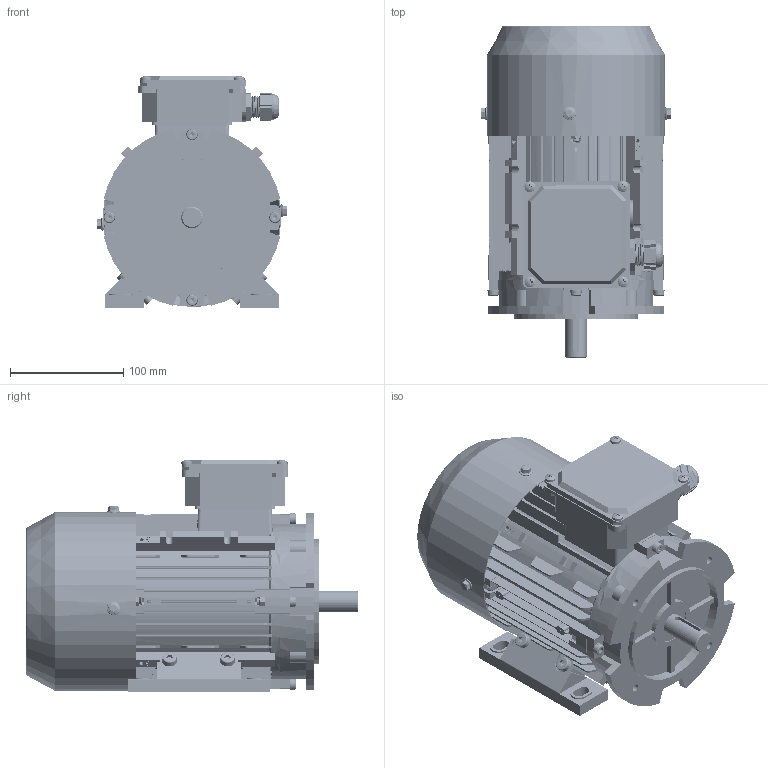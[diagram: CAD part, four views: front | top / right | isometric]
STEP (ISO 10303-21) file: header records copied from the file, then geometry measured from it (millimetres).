
FILE_DESCRIPTION (( 'STEP AP203' ), '1' );
FILE_NAME ('ME3-80B34B 3Dͼ.STEP', '2024-07-29T01:16:51', ( 'User' ), ( 'China' ), 'SwSTEP 2.0', 'SolidWorks 2018', '' );
FILE_SCHEMA (( 'CONFIG_CONTROL_DESIGN' ));
Length unit declared in the file: millimetre
Products named in the file (22): MS63-71諉盄碟裔; hex lobular socket head cap screws-4.8 gb_GB_HEXAGON_TYPE21 M8X30-30-C; hex nuts, style 2-grades ab gb_GB_HEXAGON_TYPE13 M5 Normal Style-C; ME3 80儂褲; wave single coil spring lock washers gb_GB_FASTENER_WASHER_WSLW 8; hex lobular socket head cap screws-4.8 gb_GB_HEXAGON_TYPE21 M6X30-30-S; ME2  B3后瑞盖; hex nuts-style normal-grades ab gb_GB_HEXAGON_TYPE10 M8X1-C; ME2  80瑞欶; ME2  80蛌粣; ME3-80B14B傷裔; hex flange bolts-heavy grade b gb_GB_FASTENER_BOLT_HFBB M5X10-C; MS63-71諉盄碟菁釱; 34X20X7蚐猾; wave single coil spring lock washers gb_GB_FASTENER_WASHER_WSLW 6; 蹟杶郋M20X1.5; ME3-80B34B 3Dͼ; hex lobular socket head cap screws-4.8 gb_GB_HEXAGON_TYPE21 M6X30-30-C; 蹟簸M20X1.5; 黑芛20X1.5; cross recessed pan head screws gb_GB_CROSS_SCREWS_TYPE1 M5X8-8  H type-C; ME2 80菁褐
Assembly tree (55 placements, depth 2):
  ME3-80B34B 3Dͼ
    ME3 80儂褲
    ME2  B3后瑞盖
    ME2  80蛌粣
    MS63-71諉盄碟菁釱
    蹟杶郋M20X1.5
    蹟簸M20X1.5
    cross recessed pan head screws gb_GB_CROSS_SCREWS_TYPE1 M5X8-8  H type-C  x8
    MS63-71諉盄碟裔
    hex nuts, style 2-grades ab gb_GB_HEXAGON_TYPE13 M5 Normal Style-C  x7
    hex lobular socket head cap screws-4.8 gb_GB_HEXAGON_TYPE21 M6X30-30-S  x4
    ME2  80瑞欶
    hex flange bolts-heavy grade b gb_GB_FASTENER_BOLT_HFBB M5X10-C  x3
    wave single coil spring lock washers gb_GB_FASTENER_WASHER_WSLW 6  x4
    hex lobular socket head cap screws-4.8 gb_GB_HEXAGON_TYPE21 M6X30-30-C  x4
    黑芛20X1.5
    ME2 80菁褐  x2
    hex lobular socket head cap screws-4.8 gb_GB_HEXAGON_TYPE21 M8X30-30-C  x4
    wave single coil spring lock washers gb_GB_FASTENER_WASHER_WSLW 8  x4
    hex nuts-style normal-grades ab gb_GB_HEXAGON_TYPE10 M8X1-C  x4
    ME3-80B14B傷裔
    34X20X7蚐猾
Bounding box: 168.19 x 292.56 x 205 mm (x, y, z)
Volume: 1000581.9 mm3; surface area: 661139.9 mm2
Topology: 55 solids, 57 shells, 5518 faces, 14204 edges, 8940 vertices
Faces by surface type: plane 2599, cylinder 1334, cone 1136, bspline 218, torus 215, sphere 16
Entity records: 146065 total; most frequent: CARTESIAN_POINT 46393, ORIENTED_EDGE 21322, DIRECTION 18446, EDGE_CURVE 10661, VERTEX_POINT 6938, VECTOR 6168, LINE 6168, AXIS2_PLACEMENT_3D 6139
